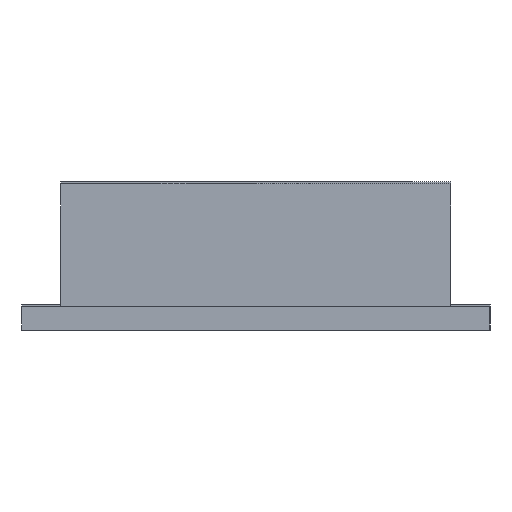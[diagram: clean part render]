
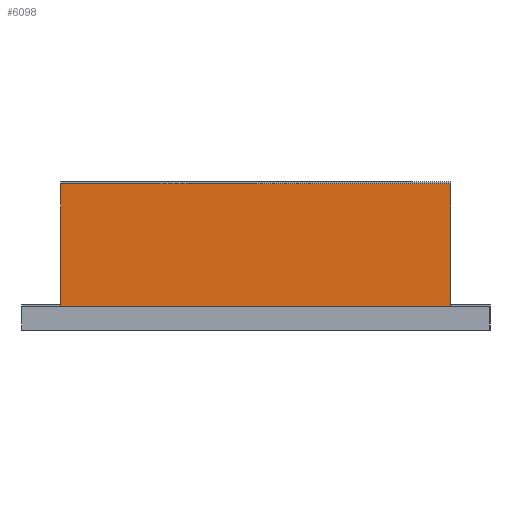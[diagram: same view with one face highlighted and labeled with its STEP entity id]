
A CAD part, left-side view. The second image highlights one B-rep face of the part: STEP entity #6098.
In plain terms, the highlighted planar face has unit normal (-1, 0, 0).
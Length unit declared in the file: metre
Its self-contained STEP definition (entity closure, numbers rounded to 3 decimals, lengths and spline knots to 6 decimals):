
#1785=ORIENTED_EDGE('',*,*,#2631,.F.);
#1786=ORIENTED_EDGE('',*,*,#2624,.F.);
#1787=ORIENTED_EDGE('',*,*,#2632,.T.);
#1788=ORIENTED_EDGE('',*,*,#2629,.T.);
#2624=EDGE_CURVE('',#3188,#3186,#3964,.T.);
#2629=EDGE_CURVE('',#3192,#3191,#3969,.T.);
#2631=EDGE_CURVE('',#3186,#3191,#3971,.T.);
#2632=EDGE_CURVE('',#3188,#3192,#3972,.T.);
#3186=VERTEX_POINT('',#9889);
#3188=VERTEX_POINT('',#9893);
#3191=VERTEX_POINT('',#9903);
#3192=VERTEX_POINT('',#9905);
#3964=LINE('',#9894,#4744);
#3969=LINE('',#9904,#4749);
#3971=LINE('',#9908,#4751);
#3972=LINE('',#9909,#4752);
#4744=VECTOR('',#8172,1.);
#4749=VECTOR('',#8181,1.);
#4751=VECTOR('',#8185,1.);
#4752=VECTOR('',#8186,1.);
#5128=EDGE_LOOP('',(#1785,#1786,#1787,#1788));
#5506=FACE_BOUND('',#5128,.T.);
#5788=PLANE('',#6646);
#6098=ADVANCED_FACE('',(#5506),#5788,.T.);
#6646=AXIS2_PLACEMENT_3D('',#9907,#8183,#8184);
#8172=DIRECTION('',(0.,0.,-1.));
#8181=DIRECTION('',(0.,0.,-1.));
#8183=DIRECTION('',(-1.,0.,0.));
#8184=DIRECTION('',(0.,-1.,0.));
#8185=DIRECTION('',(0.,1.,0.));
#8186=DIRECTION('',(0.,1.,0.));
#9889=CARTESIAN_POINT('',(-0.01515,-0.005,0.0006));
#9893=CARTESIAN_POINT('',(-0.01515,-0.005,0.00375));
#9894=CARTESIAN_POINT('',(-0.01515,-0.005,0.00375));
#9903=CARTESIAN_POINT('',(-0.01515,0.005,0.0006));
#9904=CARTESIAN_POINT('',(-0.01515,0.005,0.00375));
#9905=CARTESIAN_POINT('',(-0.01515,0.005,0.00375));
#9907=CARTESIAN_POINT('',(-0.01515,0.,0.00375));
#9908=CARTESIAN_POINT('',(-0.01515,0.,0.0006));
#9909=CARTESIAN_POINT('',(-0.01515,0.,0.00375));
